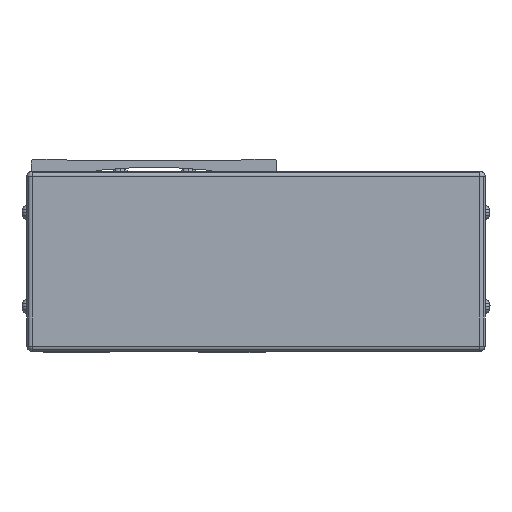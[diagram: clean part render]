
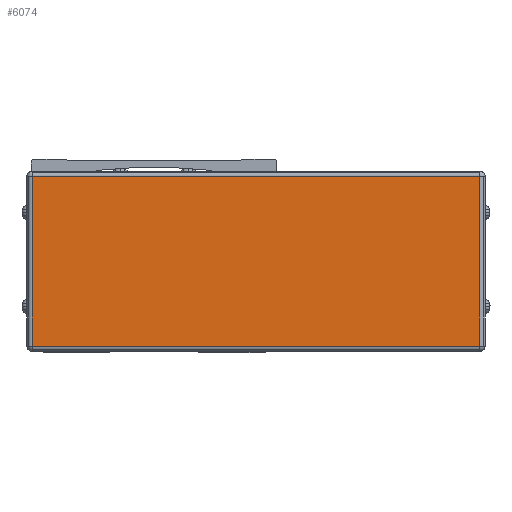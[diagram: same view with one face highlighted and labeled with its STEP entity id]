
A CAD part, front view. The second image highlights one B-rep face of the part: STEP entity #6074.
In plain terms, the highlighted planar face has unit normal (0, -1, 0).
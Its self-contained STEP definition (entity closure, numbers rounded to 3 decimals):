
#6074=ADVANCED_FACE('',(#12776),#12777,.T.);
#12776=FACE_OUTER_BOUND('',#21113,.T.);
#12777=PLANE('',#21114);
#21113=EDGE_LOOP('',(#38998,#38999,#39000,#39001));
#21114=AXIS2_PLACEMENT_3D('',#39002,#39003,#39004);
#38998=ORIENTED_EDGE('',*,*,#50578,.F.);
#38999=ORIENTED_EDGE('',*,*,#51418,.F.);
#39000=ORIENTED_EDGE('',*,*,#47055,.F.);
#39001=ORIENTED_EDGE('',*,*,#51809,.F.);
#39002=CARTESIAN_POINT('',(39.,11.222,-42.5));
#39003=DIRECTION('',(0.0,-1.0,0.0));
#39004=DIRECTION('',(1.0,0.0,0.0));
#47055=EDGE_CURVE('',#56773,#56775,#56776,.T.);
#50578=EDGE_CURVE('',#62310,#62312,#62313,.T.);
#51418=EDGE_CURVE('',#56775,#62310,#63469,.T.);
#51809=EDGE_CURVE('',#62312,#56773,#63973,.T.);
#56773=VERTEX_POINT('',#70689);
#56775=VERTEX_POINT('',#70691);
#56776=LINE('',#70692,#70693);
#62310=VERTEX_POINT('',#78768);
#62312=VERTEX_POINT('',#78770);
#62313=LINE('',#78771,#78772);
#63469=LINE('',#80461,#80462);
#63973=LINE('',#81193,#81194);
#70689=CARTESIAN_POINT('',(-46.7,11.222,24.5));
#70691=CARTESIAN_POINT('',(124.7,11.222,24.5));
#70692=CARTESIAN_POINT('',(39.,11.222,24.5));
#70693=VECTOR('',#86834,10.0);
#78768=CARTESIAN_POINT('',(124.7,11.222,-40.5));
#78770=CARTESIAN_POINT('',(-46.7,11.222,-40.5));
#78771=CARTESIAN_POINT('',(39.,11.222,-40.5));
#78772=VECTOR('',#91075,10.0);
#80461=CARTESIAN_POINT('',(124.7,11.222,-42.5));
#80462=VECTOR('',#92040,10.0);
#81193=CARTESIAN_POINT('',(-46.7,11.222,-42.5));
#81194=VECTOR('',#92476,10.0);
#86834=DIRECTION('',(1.0,0.0,0.0));
#91075=DIRECTION('',(-1.0,0.0,0.0));
#92040=DIRECTION('',(0.0,0.0,-1.0));
#92476=DIRECTION('',(0.0,0.0,1.0));
